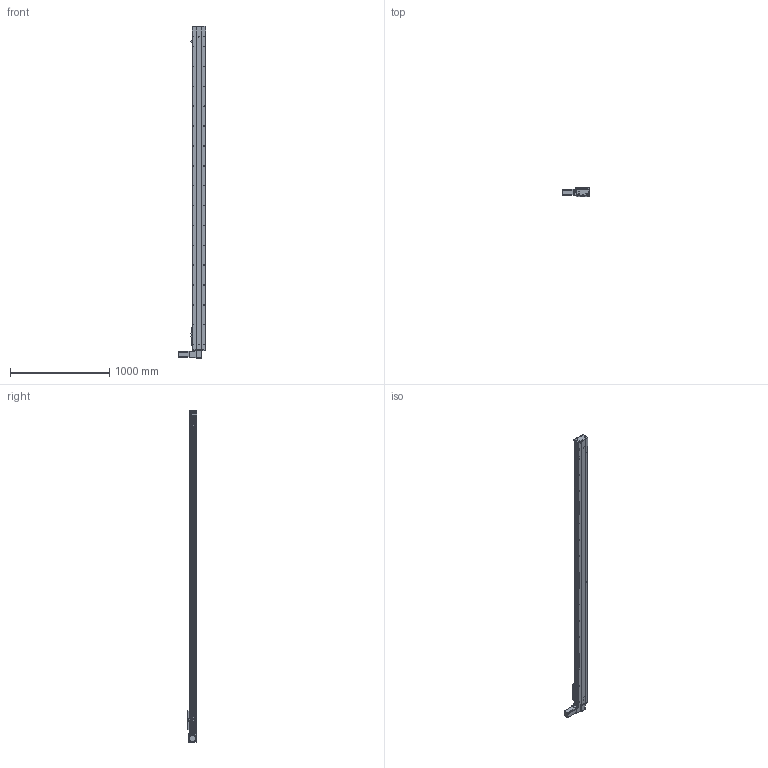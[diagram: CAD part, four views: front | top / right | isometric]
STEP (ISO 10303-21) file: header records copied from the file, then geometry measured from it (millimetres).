
FILE_DESCRIPTION (( 'STEP AP203' ), '1' );
FILE_NAME ('Y135CB-D90-S2950-BD-P400W.STEP', '2020-02-19T06:24:49', ( '微软用户' ), ( '微软中国' ), 'SwSTEP 2.0', 'SolidWorks 2017', '' );
FILE_SCHEMA (( 'CONFIG_CONTROL_DESIGN' ));
Length unit declared in the file: millimetre
Products named in the file (16): 0B-源倛裔啣; san松下电机400不带刹车----; 5CB --掛极耜裔啣-; C-詩湍揤踡え-陔; C-雄赽釱--; 135CB--詩湍-CE; Y135CB-耜裔; Y10B--々湍喘謫眊--666; Y100-135俋离換覜ん--; 135CB---遴掛极.-; 0B-薊粣ん眊; Y135C-陔俋离換覜結え-; 35CB---喘謫眊楊擘啣; Y135CB-D90-S2950-BD-P400W; 5C--俋欶; 0B-埴倛裔啣
Assembly tree (19 placements, depth 2):
  Y135CB-D90-S2950-BD-P400W
    Y135CB-耜裔
    135CB---遴掛极.-
    35CB---喘謫眊楊擘啣
    0B-埴倛裔啣
    0B-源倛裔啣
    san松下电机400不带刹车----
    5CB --掛极耜裔啣-  x2
    C-詩湍揤踡え-陔  x2
    135CB--詩湍-CE
    Y100-135俋离換覜ん--  x3
    Y135C-陔俋离換覜結え-
    5C--俋欶
    C-雄赽釱--
    Y10B--々湍喘謫眊--666
    0B-薊粣ん眊
Bounding box: 272 x 91 x 3343 mm (x, y, z)
Volume: 9457601 mm3; surface area: 3707942.7 mm2
Topology: 19 solids, 19 shells, 895 faces, 2446 edges, 1620 vertices
Faces by surface type: cylinder 464, plane 415, cone 16
Entity records: 28026 total; most frequent: CARTESIAN_POINT 4687, DIRECTION 4674, ORIENTED_EDGE 4368, EDGE_CURVE 2184, AXIS2_PLACEMENT_3D 1727, VERTEX_POINT 1448, LINE 1220, VECTOR 1220
